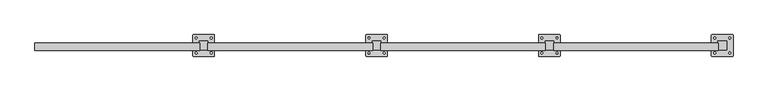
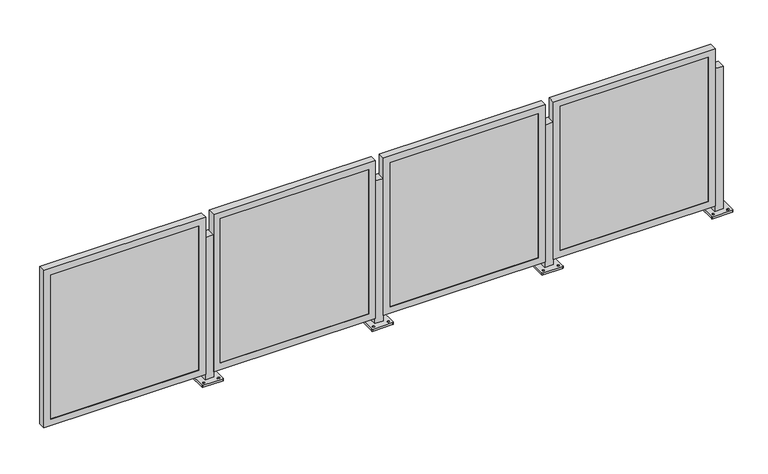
"""IFC4 building model written with IfcOpenShell, lengths in millimetres: railing geometry."""

from ifc_helpers import new_model, si_unit, frame, origin, place, context, project, spatial, polyline, circle_curve, outline, extrude, faceted_brep, source, transform, mapped, element, save
from ifc_brep_helpers import plane_surface, cylinder_surface, revolved_surface, advanced_brep


def railing_f9ef94e7(model_context):
    return source(origin(), model_context, "Body", "SolidModel", [
        advanced_brep(
        [(-18896.2510122, -6796.0307329, 914.4), (-18896.2510122, -6846.8307329, 914.4), (-18845.4510122, -6846.8307329, 914.4), (-18845.4510122, -6796.0307329, 914.4), (-18934.3510123, -6881.7556919, 0.0), (-18934.3510123, -6761.105774, 0.0), (-18931.1759842, -6757.9307458, 0.0), (-18810.5260402, -6757.9307458, 0.0), (-18807.351012, -6761.105774, 0.0), (-18807.351012, -6881.7556919, 0.0), (-18810.5260402, -6884.9307201, 0.0), (-18931.1759842, -6884.9307201, 0.0), (-18915.3009997, -6871.4369876, 0.0), (-18915.3009997, -6860.3244751, 0.0), (-18915.3010106, -6782.5369832, 0.0), (-18915.3010106, -6771.4245016, 0.0), (-18826.4009988, -6871.4369861, 0.0), (-18826.4009988, -6860.3244754, 0.0), (-18826.4010097, -6782.5369817, 0.0), (-18826.4010097, -6771.4245019, 0.0), (-18896.2510122, -6796.0307329, 12.7), (-18896.2510122, -6846.8307329, 12.7), (-18845.4510122, -6846.8307329, 12.7), (-18845.4510122, -6796.0307329, 12.7), (-18934.3510123, -6881.7556919, 12.7), (-18931.1759842, -6884.9307201, 12.7), (-18810.5260402, -6884.9307201, 12.7), (-18807.351012, -6881.7556919, 12.7), (-18807.351012, -6761.105774, 12.7), (-18810.5260402, -6757.9307458, 12.7), (-18931.1759842, -6757.9307458, 12.7), (-18934.3510123, -6761.105774, 12.7), (-18915.3009997, -6871.4369876, 12.7), (-18915.3009997, -6860.3244751, 12.7), (-18915.3010106, -6782.5369832, 12.7), (-18915.3010106, -6771.4245016, 12.7), (-18826.4009988, -6871.4369861, 12.7), (-18826.4009988, -6860.3244754, 12.7), (-18826.4010097, -6782.5369817, 12.7), (-18826.4010097, -6771.4245019, 12.7)],
        [
            (0, 1),
            (1, 2),
            (2, 3),
            (3, 0),
            (4, 5),
            (5, 6, circle_curve(frame((-18931.1759842, -6761.105774, 0.0), z_axis=(0.0, 0.0, -1.0), x_axis=(0.0, 1.0, 0.0)), 3.1750282)),
            (6, 7),
            (7, 8, circle_curve(frame((-18810.5260402, -6761.105774, 0.0), z_axis=(0.0, 0.0, -1.0), x_axis=(0.0, 1.0, 0.0)), 3.1750282)),
            (8, 9),
            (9, 10, circle_curve(frame((-18810.5260402, -6881.7556919, 0.0), z_axis=(0.0, 0.0, -1.0), x_axis=(0.0, 1.0, 0.0)), 3.1750282)),
            (10, 11),
            (11, 4, circle_curve(frame((-18931.1759842, -6881.7556919, 0.0), z_axis=(0.0, 0.0, -1.0), x_axis=(0.0, 1.0, 0.0)), 3.1750282)),
            (12, 13, circle_curve(frame((-18915.3009997, -6865.8807314, 0.0), z_axis=(0.0, 0.0, 1.0), x_axis=(0.0, 1.0, 0.0)), 5.5562562)),
            (13, 12, circle_curve(frame((-18915.3009997, -6865.8807314, 0.0), z_axis=(0.0, 0.0, 1.0), x_axis=(0.0, 1.0, 0.0)), 5.5562562)),
            (14, 15, circle_curve(frame((-18915.3010106, -6776.9807424, 0.0), z_axis=(0.0, 0.0, 1.0), x_axis=(0.0, 1.0, 0.0)), 5.5562408)),
            (15, 14, circle_curve(frame((-18915.3010106, -6776.9807424, 0.0), z_axis=(0.0, 0.0, 1.0), x_axis=(0.0, 1.0, 0.0)), 5.5562408)),
            (16, 17, circle_curve(frame((-18826.4009988, -6865.8807307, 0.0), z_axis=(0.0, 0.0, 1.0), x_axis=(0.0, 1.0, 0.0)), 5.5562553)),
            (17, 16, circle_curve(frame((-18826.4009988, -6865.8807307, 0.0), z_axis=(0.0, 0.0, 1.0), x_axis=(0.0, 1.0, 0.0)), 5.5562553)),
            (18, 19, circle_curve(frame((-18826.4010097, -6776.9807418, 0.0), z_axis=(0.0, 0.0, 1.0), x_axis=(0.0, 1.0, 0.0)), 5.5562399)),
            (19, 18, circle_curve(frame((-18826.4010097, -6776.9807418, 0.0), z_axis=(0.0, 0.0, 1.0), x_axis=(0.0, 1.0, 0.0)), 5.5562399)),
            (0, 20),
            (20, 21),
            (21, 1),
            (21, 22),
            (22, 2),
            (22, 23),
            (23, 3),
            (23, 20),
            (24, 25, circle_curve(frame((-18931.1759842, -6881.7556919, 12.7), z_axis=(0.0, 0.0, 1.0), x_axis=(0.0, 1.0, 0.0)), 3.1750282)),
            (25, 26),
            (26, 27, circle_curve(frame((-18810.5260402, -6881.7556919, 12.7), z_axis=(0.0, 0.0, 1.0), x_axis=(0.0, 1.0, 0.0)), 3.1750282)),
            (27, 28),
            (28, 29, circle_curve(frame((-18810.5260402, -6761.105774, 12.7), z_axis=(0.0, 0.0, 1.0), x_axis=(0.0, 1.0, 0.0)), 3.1750282)),
            (29, 30),
            (30, 31, circle_curve(frame((-18931.1759842, -6761.105774, 12.7), z_axis=(0.0, 0.0, 1.0), x_axis=(0.0, 1.0, 0.0)), 3.1750282)),
            (31, 24),
            (32, 33, circle_curve(frame((-18915.3009997, -6865.8807314, 12.7), z_axis=(0.0, 0.0, -1.0), x_axis=(0.0, 1.0, 0.0)), 5.5562562)),
            (33, 32, circle_curve(frame((-18915.3009997, -6865.8807314, 12.7), z_axis=(0.0, 0.0, -1.0), x_axis=(0.0, 1.0, 0.0)), 5.5562562)),
            (34, 35, circle_curve(frame((-18915.3010106, -6776.9807424, 12.7), z_axis=(0.0, 0.0, -1.0), x_axis=(0.0, 1.0, 0.0)), 5.5562408)),
            (35, 34, circle_curve(frame((-18915.3010106, -6776.9807424, 12.7), z_axis=(0.0, 0.0, -1.0), x_axis=(0.0, 1.0, 0.0)), 5.5562408)),
            (36, 37, circle_curve(frame((-18826.4009988, -6865.8807307, 12.7), z_axis=(0.0, 0.0, -1.0), x_axis=(0.0, 1.0, 0.0)), 5.5562553)),
            (37, 36, circle_curve(frame((-18826.4009988, -6865.8807307, 12.7), z_axis=(0.0, 0.0, -1.0), x_axis=(0.0, 1.0, 0.0)), 5.5562553)),
            (38, 39, circle_curve(frame((-18826.4010097, -6776.9807418, 12.7), z_axis=(0.0, 0.0, -1.0), x_axis=(0.0, 1.0, 0.0)), 5.5562399)),
            (39, 38, circle_curve(frame((-18826.4010097, -6776.9807418, 12.7), z_axis=(0.0, 0.0, -1.0), x_axis=(0.0, 1.0, 0.0)), 5.5562399)),
            (24, 4),
            (11, 25),
            (10, 26),
            (9, 27),
            (8, 28),
            (7, 29),
            (6, 30),
            (5, 31),
            (32, 12),
            (13, 33),
            (34, 14),
            (15, 35),
            (36, 16),
            (17, 37),
            (38, 18),
            (19, 39),
        ],
        [
            plane_surface(frame((-18896.2510122, -6846.8307329, 914.4), z_axis=(0.0, 0.0, 1.0), x_axis=(0.0, -1.0, 0.0))),
            plane_surface(frame((-18896.2510122, -6846.8307329, 0.0), z_axis=(0.0, 0.0, -1.0), x_axis=(0.0, 1.0, 0.0))),
            plane_surface(frame((-18896.2510122, -6796.0307329, 914.4), z_axis=(-1.0, 0.0, 0.0), x_axis=(0.0, 0.0, -1.0))),
            plane_surface(frame((-18896.2510122, -6846.8307329, 914.4), z_axis=(0.0, -1.0, 0.0), x_axis=(0.0, 0.0, -1.0))),
            plane_surface(frame((-18845.4510122, -6846.8307329, 914.4), z_axis=(1.0, 0.0, 0.0), x_axis=(0.0, 0.0, -1.0))),
            plane_surface(frame((-18845.4510122, -6796.0307329, 914.4), z_axis=(0.0, 1.0, 0.0), x_axis=(0.0, 0.0, -1.0))),
            plane_surface(frame((-18931.1759842, -6878.5806638, 12.7), z_axis=(0.0, 0.0, 1.0), x_axis=(-1.0, 0.0, 0.0))),
            cylinder_surface(frame((-18931.1759842, -6881.7556919, 0.0), z_axis=(0.0, 0.0, 1.0), x_axis=(0.0, 1.0, 0.0)), 3.1750282),
            plane_surface(frame((-18931.1759842, -6884.9307201, 12.7), z_axis=(1.1945386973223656e-12, -1.0, 0.0), x_axis=(0.0, 0.0, -1.0))),
            cylinder_surface(frame((-18810.5260402, -6881.7556919, 0.0), z_axis=(0.0, 0.0, 1.0), x_axis=(0.0, 1.0, 0.0)), 3.1750282),
            plane_surface(frame((-18807.351012, -6881.7556919, 12.7), z_axis=(1.0, 0.0, 0.0), x_axis=(0.0, 0.0, -1.0))),
            cylinder_surface(frame((-18810.5260402, -6761.105774, 0.0), z_axis=(0.0, 0.0, 1.0), x_axis=(0.0, 1.0, 0.0)), 3.1750282),
            plane_surface(frame((-18810.5260402, -6757.9307458, 12.7), z_axis=(-1.1946088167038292e-12, 1.0, 0.0), x_axis=(0.0, 0.0, -1.0))),
            cylinder_surface(frame((-18931.1759842, -6761.105774, 0.0), z_axis=(0.0, 0.0, 1.0), x_axis=(0.0, 1.0, 0.0)), 3.1750282),
            plane_surface(frame((-18934.3510123, -6761.105774, 12.7), z_axis=(-1.0, 0.0, 0.0), x_axis=(0.0, 0.0, -1.0))),
            revolved_surface(polyline([(-18915.3009997, -6860.3244752, 0.0), (-18915.3009997, -6860.3244752, 12.7)]), (-18915.3009997, -6865.8807314, 0.0), (0.0, 0.0, -1.0)),
            revolved_surface(polyline([(-18915.3010106, -6771.4245016, 0.0), (-18915.3010106, -6771.4245016, 12.7)]), (-18915.3010106, -6776.9807424, 0.0), (0.0, 0.0, -1.0)),
            revolved_surface(polyline([(-18826.4009988, -6860.3244754, 0.0), (-18826.4009988, -6860.3244754, 12.7)]), (-18826.4009988, -6865.8807307, 0.0), (0.0, 0.0, -1.0)),
            revolved_surface(polyline([(-18826.4010097, -6771.4245019, 0.0), (-18826.4010097, -6771.4245019, 12.7)]), (-18826.4010097, -6776.9807418, 0.0), (0.0, 0.0, -1.0)),
        ],
        [
            (0, [[1, 2, 3, 4]]),
            (1, [[5, 6, 7, 8, 9, 10, 11, 12], [13, 14], [15, 16], [17, 18], [19, 20]]),
            (2, [[-1, 21, 22, 23]]),
            (3, [[-2, -23, 24, 25]]),
            (4, [[-3, -25, 26, 27]]),
            (5, [[-4, -27, 28, -21]]),
            (6, [[29, 30, 31, 32, 33, 34, 35, 36], [-22, -28, -26, -24], [37, 38], [39, 40], [41, 42], [43, 44]]),
            (7, [[-29, 45, -12, 46]]),
            (8, [[-30, -46, -11, 47]]),
            (9, [[-31, -47, -10, 48]]),
            (10, [[-32, -48, -9, 49]]),
            (11, [[-33, -49, -8, 50]]),
            (12, [[-34, -50, -7, 51]]),
            (13, [[-35, -51, -6, 52]]),
            (14, [[-36, -52, -5, -45]]),
            (15, [[-37, 53, -14, 54]]),
            (15, [[-38, -54, -13, -53]]),
            (16, [[-39, 55, -16, 56]]),
            (16, [[-40, -56, -15, -55]]),
            (17, [[-41, 57, -18, 58]]),
            (17, [[-42, -58, -17, -57]]),
            (18, [[-43, 59, -20, 60]]),
            (18, [[-44, -60, -19, -59]]),
        ],
    ),
        faceted_brep([(-19862.6554656, -6849.5739329, 47.625), (-18894.2804656, -6849.5739329, 47.625), (-18894.2804656, -6849.5739329, 1044.575), (-19862.6554656, -6849.5739329, 1044.575), (-19821.3804656, -6849.5739329, 1003.3), (-18935.5554656, -6849.5739329, 1003.3), (-18935.5554656, -6849.5739329, 88.9), (-19821.3804656, -6849.5739329, 88.9), (-19821.3804656, -6846.8307329, 1003.3), (-19821.3804656, -6846.8307329, 88.9), (-19862.6554656, -6805.7006364, 1044.575), (-19862.6554656, -6805.7006364, 47.625), (-19859.4804656, -6805.7006364, 1041.4), (-19859.4804656, -6846.8307329, 1041.4), (-19859.4804656, -6846.8307329, 50.8), (-19859.4804656, -6805.7006364, 50.8), (-18935.5554656, -6846.8307329, 88.9), (-18894.2804656, -6805.7006364, 47.625), (-18897.4554656, -6846.8307329, 50.8), (-18897.4554656, -6805.7006364, 50.8), (-18935.5554656, -6846.8307329, 1003.3), (-18894.2804656, -6805.7006364, 1044.575), (-18897.4554656, -6846.8307329, 1041.4), (-18897.4554656, -6805.7006364, 1041.4)], [[[0, 1, 2, 3], [4, 5, 6, 7]], [[8, 4, 7, 9]], [[3, 10, 11, 0]], [[12, 13, 14, 15]], [[9, 7, 6, 16]], [[0, 11, 17, 1]], [[15, 14, 18, 19]], [[16, 6, 5, 20]], [[1, 17, 21, 2]], [[19, 18, 22, 23]], [[20, 5, 4, 8]], [[10, 21, 17, 11], [15, 19, 23, 12]], [[2, 21, 10, 3]], [[13, 22, 18, 14], [9, 16, 20, 8]], [[23, 22, 13, 12]]]),
        extrude(outline(polyline([(-19859.4804656, -6837.3057329), (-18897.4554656, -6837.3057329), (-18897.4554656, -6846.8307329), (-19859.4804656, -6846.8307329), (-19859.4804656, -6837.3057329)])), frame((0.0, 0.0, 50.8), z_axis=(0.0, 0.0, 1.0), x_axis=(1.0, 0.0, 0.0)), (0.0, 0.0, 1.0), 990.6),
        advanced_brep(
        [(-19912.2510122, -6796.0307329, 914.4), (-19912.2510122, -6846.8307329, 914.4), (-19861.4510122, -6846.8307329, 914.4), (-19861.4510122, -6796.0307329, 914.4), (-19950.3510123, -6881.7556919, 0.0), (-19950.3510123, -6761.105774, 0.0), (-19947.1759842, -6757.9307458, 0.0), (-19826.5260402, -6757.9307458, 0.0), (-19823.351012, -6761.105774, 0.0), (-19823.351012, -6881.7556919, 0.0), (-19826.5260402, -6884.9307201, 0.0), (-19947.1759842, -6884.9307201, 0.0), (-19931.3009997, -6871.4369876, 0.0), (-19931.3009997, -6860.3244751, 0.0), (-19931.3010106, -6782.5369832, 0.0), (-19931.3010106, -6771.4245016, 0.0), (-19842.4009988, -6871.4369861, 0.0), (-19842.4009988, -6860.3244754, 0.0), (-19842.4010097, -6782.5369817, 0.0), (-19842.4010097, -6771.4245019, 0.0), (-19912.2510122, -6796.0307329, 12.7), (-19912.2510122, -6846.8307329, 12.7), (-19861.4510122, -6846.8307329, 12.7), (-19861.4510122, -6796.0307329, 12.7), (-19950.3510123, -6881.7556919, 12.7), (-19947.1759842, -6884.9307201, 12.7), (-19826.5260402, -6884.9307201, 12.7), (-19823.351012, -6881.7556919, 12.7), (-19823.351012, -6761.105774, 12.7), (-19826.5260402, -6757.9307458, 12.7), (-19947.1759842, -6757.9307458, 12.7), (-19950.3510123, -6761.105774, 12.7), (-19931.3009997, -6871.4369876, 12.7), (-19931.3009997, -6860.3244751, 12.7), (-19931.3010106, -6782.5369832, 12.7), (-19931.3010106, -6771.4245016, 12.7), (-19842.4009988, -6871.4369861, 12.7), (-19842.4009988, -6860.3244754, 12.7), (-19842.4010097, -6782.5369817, 12.7), (-19842.4010097, -6771.4245019, 12.7)],
        [
            (0, 1),
            (1, 2),
            (2, 3),
            (3, 0),
            (4, 5),
            (5, 6, circle_curve(frame((-19947.1759842, -6761.105774, 0.0), z_axis=(0.0, 0.0, -1.0), x_axis=(0.0, 1.0, 0.0)), 3.1750282)),
            (6, 7),
            (7, 8, circle_curve(frame((-19826.5260402, -6761.105774, 0.0), z_axis=(0.0, 0.0, -1.0), x_axis=(0.0, 1.0, 0.0)), 3.1750282)),
            (8, 9),
            (9, 10, circle_curve(frame((-19826.5260402, -6881.7556919, 0.0), z_axis=(0.0, 0.0, -1.0), x_axis=(0.0, 1.0, 0.0)), 3.1750282)),
            (10, 11),
            (11, 4, circle_curve(frame((-19947.1759842, -6881.7556919, 0.0), z_axis=(0.0, 0.0, -1.0), x_axis=(0.0, 1.0, 0.0)), 3.1750282)),
            (12, 13, circle_curve(frame((-19931.3009997, -6865.8807314, 0.0), z_axis=(0.0, 0.0, 1.0), x_axis=(0.0, 1.0, 0.0)), 5.5562562)),
            (13, 12, circle_curve(frame((-19931.3009997, -6865.8807314, 0.0), z_axis=(0.0, 0.0, 1.0), x_axis=(0.0, 1.0, 0.0)), 5.5562562)),
            (14, 15, circle_curve(frame((-19931.3010106, -6776.9807424, 0.0), z_axis=(0.0, 0.0, 1.0), x_axis=(0.0, 1.0, 0.0)), 5.5562408)),
            (15, 14, circle_curve(frame((-19931.3010106, -6776.9807424, 0.0), z_axis=(0.0, 0.0, 1.0), x_axis=(0.0, 1.0, 0.0)), 5.5562408)),
            (16, 17, circle_curve(frame((-19842.4009988, -6865.8807307, 0.0), z_axis=(0.0, 0.0, 1.0), x_axis=(0.0, 1.0, 0.0)), 5.5562553)),
            (17, 16, circle_curve(frame((-19842.4009988, -6865.8807307, 0.0), z_axis=(0.0, 0.0, 1.0), x_axis=(0.0, 1.0, 0.0)), 5.5562553)),
            (18, 19, circle_curve(frame((-19842.4010097, -6776.9807418, 0.0), z_axis=(0.0, 0.0, 1.0), x_axis=(0.0, 1.0, 0.0)), 5.5562399)),
            (19, 18, circle_curve(frame((-19842.4010097, -6776.9807418, 0.0), z_axis=(0.0, 0.0, 1.0), x_axis=(0.0, 1.0, 0.0)), 5.5562399)),
            (0, 20),
            (20, 21),
            (21, 1),
            (21, 22),
            (22, 2),
            (22, 23),
            (23, 3),
            (23, 20),
            (24, 25, circle_curve(frame((-19947.1759842, -6881.7556919, 12.7), z_axis=(0.0, 0.0, 1.0), x_axis=(0.0, 1.0, 0.0)), 3.1750282)),
            (25, 26),
            (26, 27, circle_curve(frame((-19826.5260402, -6881.7556919, 12.7), z_axis=(0.0, 0.0, 1.0), x_axis=(0.0, 1.0, 0.0)), 3.1750282)),
            (27, 28),
            (28, 29, circle_curve(frame((-19826.5260402, -6761.105774, 12.7), z_axis=(0.0, 0.0, 1.0), x_axis=(0.0, 1.0, 0.0)), 3.1750282)),
            (29, 30),
            (30, 31, circle_curve(frame((-19947.1759842, -6761.105774, 12.7), z_axis=(0.0, 0.0, 1.0), x_axis=(0.0, 1.0, 0.0)), 3.1750282)),
            (31, 24),
            (32, 33, circle_curve(frame((-19931.3009997, -6865.8807314, 12.7), z_axis=(0.0, 0.0, -1.0), x_axis=(0.0, 1.0, 0.0)), 5.5562562)),
            (33, 32, circle_curve(frame((-19931.3009997, -6865.8807314, 12.7), z_axis=(0.0, 0.0, -1.0), x_axis=(0.0, 1.0, 0.0)), 5.5562562)),
            (34, 35, circle_curve(frame((-19931.3010106, -6776.9807424, 12.7), z_axis=(0.0, 0.0, -1.0), x_axis=(0.0, 1.0, 0.0)), 5.5562408)),
            (35, 34, circle_curve(frame((-19931.3010106, -6776.9807424, 12.7), z_axis=(0.0, 0.0, -1.0), x_axis=(0.0, 1.0, 0.0)), 5.5562408)),
            (36, 37, circle_curve(frame((-19842.4009988, -6865.8807307, 12.7), z_axis=(0.0, 0.0, -1.0), x_axis=(0.0, 1.0, 0.0)), 5.5562553)),
            (37, 36, circle_curve(frame((-19842.4009988, -6865.8807307, 12.7), z_axis=(0.0, 0.0, -1.0), x_axis=(0.0, 1.0, 0.0)), 5.5562553)),
            (38, 39, circle_curve(frame((-19842.4010097, -6776.9807418, 12.7), z_axis=(0.0, 0.0, -1.0), x_axis=(0.0, 1.0, 0.0)), 5.5562399)),
            (39, 38, circle_curve(frame((-19842.4010097, -6776.9807418, 12.7), z_axis=(0.0, 0.0, -1.0), x_axis=(0.0, 1.0, 0.0)), 5.5562399)),
            (24, 4),
            (11, 25),
            (10, 26),
            (9, 27),
            (8, 28),
            (7, 29),
            (6, 30),
            (5, 31),
            (32, 12),
            (13, 33),
            (34, 14),
            (15, 35),
            (36, 16),
            (17, 37),
            (38, 18),
            (19, 39),
        ],
        [
            plane_surface(frame((-19912.2510122, -6846.8307329, 914.4), z_axis=(0.0, 0.0, 1.0), x_axis=(0.0, -1.0, 0.0))),
            plane_surface(frame((-19912.2510122, -6846.8307329, 0.0), z_axis=(0.0, 0.0, -1.0), x_axis=(0.0, 1.0, 0.0))),
            plane_surface(frame((-19912.2510122, -6796.0307329, 914.4), z_axis=(-1.0, 0.0, 0.0), x_axis=(0.0, 0.0, -1.0))),
            plane_surface(frame((-19912.2510122, -6846.8307329, 914.4), z_axis=(0.0, -1.0, 0.0), x_axis=(0.0, 0.0, -1.0))),
            plane_surface(frame((-19861.4510122, -6846.8307329, 914.4), z_axis=(1.0, 0.0, 0.0), x_axis=(0.0, 0.0, -1.0))),
            plane_surface(frame((-19861.4510122, -6796.0307329, 914.4), z_axis=(0.0, 1.0, 0.0), x_axis=(0.0, 0.0, -1.0))),
            plane_surface(frame((-19947.1759842, -6878.5806638, 12.7), z_axis=(0.0, 0.0, 1.0), x_axis=(-1.0, 0.0, 0.0))),
            cylinder_surface(frame((-19947.1759842, -6881.7556919, 0.0), z_axis=(0.0, 0.0, 1.0), x_axis=(0.0, 1.0, 0.0)), 3.1750282),
            plane_surface(frame((-19947.1759842, -6884.9307201, 12.7), z_axis=(1.1945386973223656e-12, -1.0, 0.0), x_axis=(0.0, 0.0, -1.0))),
            cylinder_surface(frame((-19826.5260402, -6881.7556919, 0.0), z_axis=(0.0, 0.0, 1.0), x_axis=(0.0, 1.0, 0.0)), 3.1750282),
            plane_surface(frame((-19823.351012, -6881.7556919, 12.7), z_axis=(1.0, 0.0, 0.0), x_axis=(0.0, 0.0, -1.0))),
            cylinder_surface(frame((-19826.5260402, -6761.105774, 0.0), z_axis=(0.0, 0.0, 1.0), x_axis=(0.0, 1.0, 0.0)), 3.1750282),
            plane_surface(frame((-19826.5260402, -6757.9307458, 12.7), z_axis=(-1.1946088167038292e-12, 1.0, 0.0), x_axis=(0.0, 0.0, -1.0))),
            cylinder_surface(frame((-19947.1759842, -6761.105774, 0.0), z_axis=(0.0, 0.0, 1.0), x_axis=(0.0, 1.0, 0.0)), 3.1750282),
            plane_surface(frame((-19950.3510123, -6761.105774, 12.7), z_axis=(-1.0, 0.0, 0.0), x_axis=(0.0, 0.0, -1.0))),
            revolved_surface(polyline([(-19931.3009997, -6860.3244752, 0.0), (-19931.3009997, -6860.3244752, 12.7)]), (-19931.3009997, -6865.8807314, 0.0), (0.0, 0.0, -1.0)),
            revolved_surface(polyline([(-19931.3010106, -6771.4245016, 0.0), (-19931.3010106, -6771.4245016, 12.7)]), (-19931.3010106, -6776.9807424, 0.0), (0.0, 0.0, -1.0)),
            revolved_surface(polyline([(-19842.4009988, -6860.3244754, 0.0), (-19842.4009988, -6860.3244754, 12.7)]), (-19842.4009988, -6865.8807307, 0.0), (0.0, 0.0, -1.0)),
            revolved_surface(polyline([(-19842.4010097, -6771.4245019, 0.0), (-19842.4010097, -6771.4245019, 12.7)]), (-19842.4010097, -6776.9807418, 0.0), (0.0, 0.0, -1.0)),
        ],
        [
            (0, [[1, 2, 3, 4]]),
            (1, [[5, 6, 7, 8, 9, 10, 11, 12], [13, 14], [15, 16], [17, 18], [19, 20]]),
            (2, [[-1, 21, 22, 23]]),
            (3, [[-2, -23, 24, 25]]),
            (4, [[-3, -25, 26, 27]]),
            (5, [[-4, -27, 28, -21]]),
            (6, [[29, 30, 31, 32, 33, 34, 35, 36], [-22, -28, -26, -24], [37, 38], [39, 40], [41, 42], [43, 44]]),
            (7, [[-29, 45, -12, 46]]),
            (8, [[-30, -46, -11, 47]]),
            (9, [[-31, -47, -10, 48]]),
            (10, [[-32, -48, -9, 49]]),
            (11, [[-33, -49, -8, 50]]),
            (12, [[-34, -50, -7, 51]]),
            (13, [[-35, -51, -6, 52]]),
            (14, [[-36, -52, -5, -45]]),
            (15, [[-37, 53, -14, 54]]),
            (15, [[-38, -54, -13, -53]]),
            (16, [[-39, 55, -16, 56]]),
            (16, [[-40, -56, -15, -55]]),
            (17, [[-41, 57, -18, 58]]),
            (17, [[-42, -58, -17, -57]]),
            (18, [[-43, 59, -20, 60]]),
            (18, [[-44, -60, -19, -59]]),
        ],
    ),
        faceted_brep([(-20878.6554656, -6849.5739329, 47.625), (-19910.2804656, -6849.5739329, 47.625), (-19910.2804656, -6849.5739329, 1044.575), (-20878.6554656, -6849.5739329, 1044.575), (-20837.3804656, -6849.5739329, 1003.3), (-19951.5554656, -6849.5739329, 1003.3), (-19951.5554656, -6849.5739329, 88.9), (-20837.3804656, -6849.5739329, 88.9), (-20837.3804656, -6846.8307329, 1003.3), (-20837.3804656, -6846.8307329, 88.9), (-20878.6554656, -6805.7006364, 1044.575), (-20878.6554656, -6805.7006364, 47.625), (-20875.4804656, -6805.7006364, 1041.4), (-20875.4804656, -6846.8307329, 1041.4), (-20875.4804656, -6846.8307329, 50.8), (-20875.4804656, -6805.7006364, 50.8), (-19951.5554656, -6846.8307329, 88.9), (-19910.2804656, -6805.7006364, 47.625), (-19913.4554656, -6846.8307329, 50.8), (-19913.4554656, -6805.7006364, 50.8), (-19951.5554656, -6846.8307329, 1003.3), (-19910.2804656, -6805.7006364, 1044.575), (-19913.4554656, -6846.8307329, 1041.4), (-19913.4554656, -6805.7006364, 1041.4)], [[[0, 1, 2, 3], [4, 5, 6, 7]], [[8, 4, 7, 9]], [[3, 10, 11, 0]], [[12, 13, 14, 15]], [[9, 7, 6, 16]], [[0, 11, 17, 1]], [[15, 14, 18, 19]], [[16, 6, 5, 20]], [[1, 17, 21, 2]], [[19, 18, 22, 23]], [[20, 5, 4, 8]], [[10, 21, 17, 11], [15, 19, 23, 12]], [[2, 21, 10, 3]], [[13, 22, 18, 14], [9, 16, 20, 8]], [[23, 22, 13, 12]]]),
        extrude(outline(polyline([(-20875.4804656, -6837.3057329), (-19913.4554656, -6837.3057329), (-19913.4554656, -6846.8307329), (-20875.4804656, -6846.8307329), (-20875.4804656, -6837.3057329)])), frame((0.0, 0.0, 50.8), z_axis=(0.0, 0.0, 1.0), x_axis=(1.0, 0.0, 0.0)), (0.0, 0.0, 1.0), 990.6),
        advanced_brep(
        [(-20928.2510122, -6796.0307329, 914.4), (-20928.2510122, -6846.8307329, 914.4), (-20877.4510122, -6846.8307329, 914.4), (-20877.4510122, -6796.0307329, 914.4), (-20966.3510123, -6881.7556919, 0.0), (-20966.3510123, -6761.105774, 0.0), (-20963.1759842, -6757.9307458, 0.0), (-20842.5260402, -6757.9307458, 0.0), (-20839.351012, -6761.105774, 0.0), (-20839.351012, -6881.7556919, 0.0), (-20842.5260402, -6884.9307201, 0.0), (-20963.1759842, -6884.9307201, 0.0), (-20947.3009997, -6871.4369876, 0.0), (-20947.3009997, -6860.3244751, 0.0), (-20947.3010106, -6782.5369832, 0.0), (-20947.3010106, -6771.4245016, 0.0), (-20858.4009988, -6871.4369861, 0.0), (-20858.4009988, -6860.3244754, 0.0), (-20858.4010097, -6782.5369817, 0.0), (-20858.4010097, -6771.4245019, 0.0), (-20928.2510122, -6796.0307329, 12.7), (-20928.2510122, -6846.8307329, 12.7), (-20877.4510122, -6846.8307329, 12.7), (-20877.4510122, -6796.0307329, 12.7), (-20966.3510123, -6881.7556919, 12.7), (-20963.1759842, -6884.9307201, 12.7), (-20842.5260402, -6884.9307201, 12.7), (-20839.351012, -6881.7556919, 12.7), (-20839.351012, -6761.105774, 12.7), (-20842.5260402, -6757.9307458, 12.7), (-20963.1759842, -6757.9307458, 12.7), (-20966.3510123, -6761.105774, 12.7), (-20947.3009997, -6871.4369876, 12.7), (-20947.3009997, -6860.3244751, 12.7), (-20947.3010106, -6782.5369832, 12.7), (-20947.3010106, -6771.4245016, 12.7), (-20858.4009988, -6871.4369861, 12.7), (-20858.4009988, -6860.3244754, 12.7), (-20858.4010097, -6782.5369817, 12.7), (-20858.4010097, -6771.4245019, 12.7)],
        [
            (0, 1),
            (1, 2),
            (2, 3),
            (3, 0),
            (4, 5),
            (5, 6, circle_curve(frame((-20963.1759842, -6761.105774, 0.0), z_axis=(0.0, 0.0, -1.0), x_axis=(0.0, 1.0, 0.0)), 3.1750282)),
            (6, 7),
            (7, 8, circle_curve(frame((-20842.5260402, -6761.105774, 0.0), z_axis=(0.0, 0.0, -1.0), x_axis=(0.0, 1.0, 0.0)), 3.1750282)),
            (8, 9),
            (9, 10, circle_curve(frame((-20842.5260402, -6881.7556919, 0.0), z_axis=(0.0, 0.0, -1.0), x_axis=(0.0, 1.0, 0.0)), 3.1750282)),
            (10, 11),
            (11, 4, circle_curve(frame((-20963.1759842, -6881.7556919, 0.0), z_axis=(0.0, 0.0, -1.0), x_axis=(0.0, 1.0, 0.0)), 3.1750282)),
            (12, 13, circle_curve(frame((-20947.3009997, -6865.8807314, 0.0), z_axis=(0.0, 0.0, 1.0), x_axis=(0.0, 1.0, 0.0)), 5.5562562)),
            (13, 12, circle_curve(frame((-20947.3009997, -6865.8807314, 0.0), z_axis=(0.0, 0.0, 1.0), x_axis=(0.0, 1.0, 0.0)), 5.5562562)),
            (14, 15, circle_curve(frame((-20947.3010106, -6776.9807424, 0.0), z_axis=(0.0, 0.0, 1.0), x_axis=(0.0, 1.0, 0.0)), 5.5562408)),
            (15, 14, circle_curve(frame((-20947.3010106, -6776.9807424, 0.0), z_axis=(0.0, 0.0, 1.0), x_axis=(0.0, 1.0, 0.0)), 5.5562408)),
            (16, 17, circle_curve(frame((-20858.4009988, -6865.8807307, 0.0), z_axis=(0.0, 0.0, 1.0), x_axis=(0.0, 1.0, 0.0)), 5.5562553)),
            (17, 16, circle_curve(frame((-20858.4009988, -6865.8807307, 0.0), z_axis=(0.0, 0.0, 1.0), x_axis=(0.0, 1.0, 0.0)), 5.5562553)),
            (18, 19, circle_curve(frame((-20858.4010097, -6776.9807418, 0.0), z_axis=(0.0, 0.0, 1.0), x_axis=(0.0, 1.0, 0.0)), 5.5562399)),
            (19, 18, circle_curve(frame((-20858.4010097, -6776.9807418, 0.0), z_axis=(0.0, 0.0, 1.0), x_axis=(0.0, 1.0, 0.0)), 5.5562399)),
            (0, 20),
            (20, 21),
            (21, 1),
            (21, 22),
            (22, 2),
            (22, 23),
            (23, 3),
            (23, 20),
            (24, 25, circle_curve(frame((-20963.1759842, -6881.7556919, 12.7), z_axis=(0.0, 0.0, 1.0), x_axis=(0.0, 1.0, 0.0)), 3.1750282)),
            (25, 26),
            (26, 27, circle_curve(frame((-20842.5260402, -6881.7556919, 12.7), z_axis=(0.0, 0.0, 1.0), x_axis=(0.0, 1.0, 0.0)), 3.1750282)),
            (27, 28),
            (28, 29, circle_curve(frame((-20842.5260402, -6761.105774, 12.7), z_axis=(0.0, 0.0, 1.0), x_axis=(0.0, 1.0, 0.0)), 3.1750282)),
            (29, 30),
            (30, 31, circle_curve(frame((-20963.1759842, -6761.105774, 12.7), z_axis=(0.0, 0.0, 1.0), x_axis=(0.0, 1.0, 0.0)), 3.1750282)),
            (31, 24),
            (32, 33, circle_curve(frame((-20947.3009997, -6865.8807314, 12.7), z_axis=(0.0, 0.0, -1.0), x_axis=(0.0, 1.0, 0.0)), 5.5562562)),
            (33, 32, circle_curve(frame((-20947.3009997, -6865.8807314, 12.7), z_axis=(0.0, 0.0, -1.0), x_axis=(0.0, 1.0, 0.0)), 5.5562562)),
            (34, 35, circle_curve(frame((-20947.3010106, -6776.9807424, 12.7), z_axis=(0.0, 0.0, -1.0), x_axis=(0.0, 1.0, 0.0)), 5.5562408)),
            (35, 34, circle_curve(frame((-20947.3010106, -6776.9807424, 12.7), z_axis=(0.0, 0.0, -1.0), x_axis=(0.0, 1.0, 0.0)), 5.5562408)),
            (36, 37, circle_curve(frame((-20858.4009988, -6865.8807307, 12.7), z_axis=(0.0, 0.0, -1.0), x_axis=(0.0, 1.0, 0.0)), 5.5562553)),
            (37, 36, circle_curve(frame((-20858.4009988, -6865.8807307, 12.7), z_axis=(0.0, 0.0, -1.0), x_axis=(0.0, 1.0, 0.0)), 5.5562553)),
            (38, 39, circle_curve(frame((-20858.4010097, -6776.9807418, 12.7), z_axis=(0.0, 0.0, -1.0), x_axis=(0.0, 1.0, 0.0)), 5.5562399)),
            (39, 38, circle_curve(frame((-20858.4010097, -6776.9807418, 12.7), z_axis=(0.0, 0.0, -1.0), x_axis=(0.0, 1.0, 0.0)), 5.5562399)),
            (24, 4),
            (11, 25),
            (10, 26),
            (9, 27),
            (8, 28),
            (7, 29),
            (6, 30),
            (5, 31),
            (32, 12),
            (13, 33),
            (34, 14),
            (15, 35),
            (36, 16),
            (17, 37),
            (38, 18),
            (19, 39),
        ],
        [
            plane_surface(frame((-20928.2510122, -6846.8307329, 914.4), z_axis=(0.0, 0.0, 1.0), x_axis=(0.0, -1.0, 0.0))),
            plane_surface(frame((-20928.2510122, -6846.8307329, 0.0), z_axis=(0.0, 0.0, -1.0), x_axis=(0.0, 1.0, 0.0))),
            plane_surface(frame((-20928.2510122, -6796.0307329, 914.4), z_axis=(-1.0, 0.0, 0.0), x_axis=(0.0, 0.0, -1.0))),
            plane_surface(frame((-20928.2510122, -6846.8307329, 914.4), z_axis=(0.0, -1.0, 0.0), x_axis=(0.0, 0.0, -1.0))),
            plane_surface(frame((-20877.4510122, -6846.8307329, 914.4), z_axis=(1.0, 0.0, 0.0), x_axis=(0.0, 0.0, -1.0))),
            plane_surface(frame((-20877.4510122, -6796.0307329, 914.4), z_axis=(0.0, 1.0, 0.0), x_axis=(0.0, 0.0, -1.0))),
            plane_surface(frame((-20963.1759842, -6878.5806638, 12.7), z_axis=(0.0, 0.0, 1.0), x_axis=(-1.0, 0.0, 0.0))),
            cylinder_surface(frame((-20963.1759842, -6881.7556919, 0.0), z_axis=(0.0, 0.0, 1.0), x_axis=(0.0, 1.0, 0.0)), 3.1750282),
            plane_surface(frame((-20963.1759842, -6884.9307201, 12.7), z_axis=(1.1945386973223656e-12, -1.0, 0.0), x_axis=(0.0, 0.0, -1.0))),
            cylinder_surface(frame((-20842.5260402, -6881.7556919, 0.0), z_axis=(0.0, 0.0, 1.0), x_axis=(0.0, 1.0, 0.0)), 3.1750282),
            plane_surface(frame((-20839.351012, -6881.7556919, 12.7), z_axis=(1.0, 0.0, 0.0), x_axis=(0.0, 0.0, -1.0))),
            cylinder_surface(frame((-20842.5260402, -6761.105774, 0.0), z_axis=(0.0, 0.0, 1.0), x_axis=(0.0, 1.0, 0.0)), 3.1750282),
            plane_surface(frame((-20842.5260402, -6757.9307458, 12.7), z_axis=(-1.1946088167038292e-12, 1.0, 0.0), x_axis=(0.0, 0.0, -1.0))),
            cylinder_surface(frame((-20963.1759842, -6761.105774, 0.0), z_axis=(0.0, 0.0, 1.0), x_axis=(0.0, 1.0, 0.0)), 3.1750282),
            plane_surface(frame((-20966.3510123, -6761.105774, 12.7), z_axis=(-1.0, 0.0, 0.0), x_axis=(0.0, 0.0, -1.0))),
            revolved_surface(polyline([(-20947.3009997, -6860.3244752, 0.0), (-20947.3009997, -6860.3244752, 12.7)]), (-20947.3009997, -6865.8807314, 0.0), (0.0, 0.0, -1.0)),
            revolved_surface(polyline([(-20947.3010106, -6771.4245016, 0.0), (-20947.3010106, -6771.4245016, 12.7)]), (-20947.3010106, -6776.9807424, 0.0), (0.0, 0.0, -1.0)),
            revolved_surface(polyline([(-20858.4009988, -6860.3244754, 0.0), (-20858.4009988, -6860.3244754, 12.7)]), (-20858.4009988, -6865.8807307, 0.0), (0.0, 0.0, -1.0)),
            revolved_surface(polyline([(-20858.4010097, -6771.4245019, 0.0), (-20858.4010097, -6771.4245019, 12.7)]), (-20858.4010097, -6776.9807418, 0.0), (0.0, 0.0, -1.0)),
        ],
        [
            (0, [[1, 2, 3, 4]]),
            (1, [[5, 6, 7, 8, 9, 10, 11, 12], [13, 14], [15, 16], [17, 18], [19, 20]]),
            (2, [[-1, 21, 22, 23]]),
            (3, [[-2, -23, 24, 25]]),
            (4, [[-3, -25, 26, 27]]),
            (5, [[-4, -27, 28, -21]]),
            (6, [[29, 30, 31, 32, 33, 34, 35, 36], [-22, -28, -26, -24], [37, 38], [39, 40], [41, 42], [43, 44]]),
            (7, [[-29, 45, -12, 46]]),
            (8, [[-30, -46, -11, 47]]),
            (9, [[-31, -47, -10, 48]]),
            (10, [[-32, -48, -9, 49]]),
            (11, [[-33, -49, -8, 50]]),
            (12, [[-34, -50, -7, 51]]),
            (13, [[-35, -51, -6, 52]]),
            (14, [[-36, -52, -5, -45]]),
            (15, [[-37, 53, -14, 54]]),
            (15, [[-38, -54, -13, -53]]),
            (16, [[-39, 55, -16, 56]]),
            (16, [[-40, -56, -15, -55]]),
            (17, [[-41, 57, -18, 58]]),
            (17, [[-42, -58, -17, -57]]),
            (18, [[-43, 59, -20, 60]]),
            (18, [[-44, -60, -19, -59]]),
        ],
    ),
        faceted_brep([(-21894.6554656, -6849.5739329, 47.625), (-20926.2804656, -6849.5739329, 47.625), (-20926.2804656, -6849.5739329, 1044.575), (-21894.6554656, -6849.5739329, 1044.575), (-21853.3804656, -6849.5739329, 1003.3), (-20967.5554656, -6849.5739329, 1003.3), (-20967.5554656, -6849.5739329, 88.9), (-21853.3804656, -6849.5739329, 88.9), (-21853.3804656, -6846.8307329, 1003.3), (-21853.3804656, -6846.8307329, 88.9), (-21894.6554656, -6805.7006364, 1044.575), (-21894.6554656, -6805.7006364, 47.625), (-21891.4804656, -6805.7006364, 1041.4), (-21891.4804656, -6846.8307329, 1041.4), (-21891.4804656, -6846.8307329, 50.8), (-21891.4804656, -6805.7006364, 50.8), (-20967.5554656, -6846.8307329, 88.9), (-20926.2804656, -6805.7006364, 47.625), (-20929.4554656, -6846.8307329, 50.8), (-20929.4554656, -6805.7006364, 50.8), (-20967.5554656, -6846.8307329, 1003.3), (-20926.2804656, -6805.7006364, 1044.575), (-20929.4554656, -6846.8307329, 1041.4), (-20929.4554656, -6805.7006364, 1041.4)], [[[0, 1, 2, 3], [4, 5, 6, 7]], [[8, 4, 7, 9]], [[3, 10, 11, 0]], [[12, 13, 14, 15]], [[9, 7, 6, 16]], [[0, 11, 17, 1]], [[15, 14, 18, 19]], [[16, 6, 5, 20]], [[1, 17, 21, 2]], [[19, 18, 22, 23]], [[20, 5, 4, 8]], [[10, 21, 17, 11], [15, 19, 23, 12]], [[2, 21, 10, 3]], [[13, 22, 18, 14], [9, 16, 20, 8]], [[23, 22, 13, 12]]]),
        extrude(outline(polyline([(-21891.4804656, -6837.3057329), (-20929.4554656, -6837.3057329), (-20929.4554656, -6846.8307329), (-21891.4804656, -6846.8307329), (-21891.4804656, -6837.3057329)])), frame((0.0, 0.0, 50.8), z_axis=(0.0, 0.0, 1.0), x_axis=(1.0, 0.0, 0.0)), (0.0, 0.0, 1.0), 990.6),
        advanced_brep(
        [(-21944.2510122, -6796.0307329, 914.4), (-21944.2510122, -6846.8307329, 914.4), (-21893.4510122, -6846.8307329, 914.4), (-21893.4510122, -6796.0307329, 914.4), (-21982.3510123, -6881.7556919, 0.0), (-21982.3510123, -6761.105774, 0.0), (-21979.1759842, -6757.9307458, 0.0), (-21858.5260402, -6757.9307458, 0.0), (-21855.351012, -6761.105774, 0.0), (-21855.351012, -6881.7556919, 0.0), (-21858.5260402, -6884.9307201, 0.0), (-21979.1759842, -6884.9307201, 0.0), (-21963.3009997, -6871.4369876, 0.0), (-21963.3009997, -6860.3244751, 0.0), (-21963.3010106, -6782.5369832, 0.0), (-21963.3010106, -6771.4245016, 0.0), (-21874.4009988, -6871.4369861, 0.0), (-21874.4009988, -6860.3244754, 0.0), (-21874.4010097, -6782.5369817, 0.0), (-21874.4010097, -6771.4245019, 0.0), (-21944.2510122, -6796.0307329, 12.7), (-21944.2510122, -6846.8307329, 12.7), (-21893.4510122, -6846.8307329, 12.7), (-21893.4510122, -6796.0307329, 12.7), (-21982.3510123, -6881.7556919, 12.7), (-21979.1759842, -6884.9307201, 12.7), (-21858.5260402, -6884.9307201, 12.7), (-21855.351012, -6881.7556919, 12.7), (-21855.351012, -6761.105774, 12.7), (-21858.5260402, -6757.9307458, 12.7), (-21979.1759842, -6757.9307458, 12.7), (-21982.3510123, -6761.105774, 12.7), (-21963.3009997, -6871.4369876, 12.7), (-21963.3009997, -6860.3244751, 12.7), (-21963.3010106, -6782.5369832, 12.7), (-21963.3010106, -6771.4245016, 12.7), (-21874.4009988, -6871.4369861, 12.7), (-21874.4009988, -6860.3244754, 12.7), (-21874.4010097, -6782.5369817, 12.7), (-21874.4010097, -6771.4245019, 12.7)],
        [
            (0, 1),
            (1, 2),
            (2, 3),
            (3, 0),
            (4, 5),
            (5, 6, circle_curve(frame((-21979.1759842, -6761.105774, 0.0), z_axis=(0.0, 0.0, -1.0), x_axis=(0.0, 1.0, 0.0)), 3.1750282)),
            (6, 7),
            (7, 8, circle_curve(frame((-21858.5260402, -6761.105774, 0.0), z_axis=(0.0, 0.0, -1.0), x_axis=(0.0, 1.0, 0.0)), 3.1750282)),
            (8, 9),
            (9, 10, circle_curve(frame((-21858.5260402, -6881.7556919, 0.0), z_axis=(0.0, 0.0, -1.0), x_axis=(0.0, 1.0, 0.0)), 3.1750282)),
            (10, 11),
            (11, 4, circle_curve(frame((-21979.1759842, -6881.7556919, 0.0), z_axis=(0.0, 0.0, -1.0), x_axis=(0.0, 1.0, 0.0)), 3.1750282)),
            (12, 13, circle_curve(frame((-21963.3009997, -6865.8807314, 0.0), z_axis=(0.0, 0.0, 1.0), x_axis=(0.0, 1.0, 0.0)), 5.5562562)),
            (13, 12, circle_curve(frame((-21963.3009997, -6865.8807314, 0.0), z_axis=(0.0, 0.0, 1.0), x_axis=(0.0, 1.0, 0.0)), 5.5562562)),
            (14, 15, circle_curve(frame((-21963.3010106, -6776.9807424, 0.0), z_axis=(0.0, 0.0, 1.0), x_axis=(0.0, 1.0, 0.0)), 5.5562408)),
            (15, 14, circle_curve(frame((-21963.3010106, -6776.9807424, 0.0), z_axis=(0.0, 0.0, 1.0), x_axis=(0.0, 1.0, 0.0)), 5.5562408)),
            (16, 17, circle_curve(frame((-21874.4009988, -6865.8807307, 0.0), z_axis=(0.0, 0.0, 1.0), x_axis=(0.0, 1.0, 0.0)), 5.5562553)),
            (17, 16, circle_curve(frame((-21874.4009988, -6865.8807307, 0.0), z_axis=(0.0, 0.0, 1.0), x_axis=(0.0, 1.0, 0.0)), 5.5562553)),
            (18, 19, circle_curve(frame((-21874.4010097, -6776.9807418, 0.0), z_axis=(0.0, 0.0, 1.0), x_axis=(0.0, 1.0, 0.0)), 5.5562399)),
            (19, 18, circle_curve(frame((-21874.4010097, -6776.9807418, 0.0), z_axis=(0.0, 0.0, 1.0), x_axis=(0.0, 1.0, 0.0)), 5.5562399)),
            (0, 20),
            (20, 21),
            (21, 1),
            (21, 22),
            (22, 2),
            (22, 23),
            (23, 3),
            (23, 20),
            (24, 25, circle_curve(frame((-21979.1759842, -6881.7556919, 12.7), z_axis=(0.0, 0.0, 1.0), x_axis=(0.0, 1.0, 0.0)), 3.1750282)),
            (25, 26),
            (26, 27, circle_curve(frame((-21858.5260402, -6881.7556919, 12.7), z_axis=(0.0, 0.0, 1.0), x_axis=(0.0, 1.0, 0.0)), 3.1750282)),
            (27, 28),
            (28, 29, circle_curve(frame((-21858.5260402, -6761.105774, 12.7), z_axis=(0.0, 0.0, 1.0), x_axis=(0.0, 1.0, 0.0)), 3.1750282)),
            (29, 30),
            (30, 31, circle_curve(frame((-21979.1759842, -6761.105774, 12.7), z_axis=(0.0, 0.0, 1.0), x_axis=(0.0, 1.0, 0.0)), 3.1750282)),
            (31, 24),
            (32, 33, circle_curve(frame((-21963.3009997, -6865.8807314, 12.7), z_axis=(0.0, 0.0, -1.0), x_axis=(0.0, 1.0, 0.0)), 5.5562562)),
            (33, 32, circle_curve(frame((-21963.3009997, -6865.8807314, 12.7), z_axis=(0.0, 0.0, -1.0), x_axis=(0.0, 1.0, 0.0)), 5.5562562)),
            (34, 35, circle_curve(frame((-21963.3010106, -6776.9807424, 12.7), z_axis=(0.0, 0.0, -1.0), x_axis=(0.0, 1.0, 0.0)), 5.5562408)),
            (35, 34, circle_curve(frame((-21963.3010106, -6776.9807424, 12.7), z_axis=(0.0, 0.0, -1.0), x_axis=(0.0, 1.0, 0.0)), 5.5562408)),
            (36, 37, circle_curve(frame((-21874.4009988, -6865.8807307, 12.7), z_axis=(0.0, 0.0, -1.0), x_axis=(0.0, 1.0, 0.0)), 5.5562553)),
            (37, 36, circle_curve(frame((-21874.4009988, -6865.8807307, 12.7), z_axis=(0.0, 0.0, -1.0), x_axis=(0.0, 1.0, 0.0)), 5.5562553)),
            (38, 39, circle_curve(frame((-21874.4010097, -6776.9807418, 12.7), z_axis=(0.0, 0.0, -1.0), x_axis=(0.0, 1.0, 0.0)), 5.5562399)),
            (39, 38, circle_curve(frame((-21874.4010097, -6776.9807418, 12.7), z_axis=(0.0, 0.0, -1.0), x_axis=(0.0, 1.0, 0.0)), 5.5562399)),
            (24, 4),
            (11, 25),
            (10, 26),
            (9, 27),
            (8, 28),
            (7, 29),
            (6, 30),
            (5, 31),
            (32, 12),
            (13, 33),
            (34, 14),
            (15, 35),
            (36, 16),
            (17, 37),
            (38, 18),
            (19, 39),
        ],
        [
            plane_surface(frame((-21944.2510122, -6846.8307329, 914.4), z_axis=(0.0, 0.0, 1.0), x_axis=(0.0, -1.0, 0.0))),
            plane_surface(frame((-21944.2510122, -6846.8307329, 0.0), z_axis=(0.0, 0.0, -1.0), x_axis=(0.0, 1.0, 0.0))),
            plane_surface(frame((-21944.2510122, -6796.0307329, 914.4), z_axis=(-1.0, 0.0, 0.0), x_axis=(0.0, 0.0, -1.0))),
            plane_surface(frame((-21944.2510122, -6846.8307329, 914.4), z_axis=(0.0, -1.0, 0.0), x_axis=(0.0, 0.0, -1.0))),
            plane_surface(frame((-21893.4510122, -6846.8307329, 914.4), z_axis=(1.0, 0.0, 0.0), x_axis=(0.0, 0.0, -1.0))),
            plane_surface(frame((-21893.4510122, -6796.0307329, 914.4), z_axis=(0.0, 1.0, 0.0), x_axis=(0.0, 0.0, -1.0))),
            plane_surface(frame((-21979.1759842, -6878.5806638, 12.7), z_axis=(0.0, 0.0, 1.0), x_axis=(-1.0, 0.0, 0.0))),
            cylinder_surface(frame((-21979.1759842, -6881.7556919, 0.0), z_axis=(0.0, 0.0, 1.0), x_axis=(0.0, 1.0, 0.0)), 3.1750282),
            plane_surface(frame((-21979.1759842, -6884.9307201, 12.7), z_axis=(1.1945386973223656e-12, -1.0, 0.0), x_axis=(0.0, 0.0, -1.0))),
            cylinder_surface(frame((-21858.5260402, -6881.7556919, 0.0), z_axis=(0.0, 0.0, 1.0), x_axis=(0.0, 1.0, 0.0)), 3.1750282),
            plane_surface(frame((-21855.351012, -6881.7556919, 12.7), z_axis=(1.0, 0.0, 0.0), x_axis=(0.0, 0.0, -1.0))),
            cylinder_surface(frame((-21858.5260402, -6761.105774, 0.0), z_axis=(0.0, 0.0, 1.0), x_axis=(0.0, 1.0, 0.0)), 3.1750282),
            plane_surface(frame((-21858.5260402, -6757.9307458, 12.7), z_axis=(-1.1946088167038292e-12, 1.0, 0.0), x_axis=(0.0, 0.0, -1.0))),
            cylinder_surface(frame((-21979.1759842, -6761.105774, 0.0), z_axis=(0.0, 0.0, 1.0), x_axis=(0.0, 1.0, 0.0)), 3.1750282),
            plane_surface(frame((-21982.3510123, -6761.105774, 12.7), z_axis=(-1.0, 0.0, 0.0), x_axis=(0.0, 0.0, -1.0))),
            revolved_surface(polyline([(-21963.3009997, -6860.3244752, 0.0), (-21963.3009997, -6860.3244752, 12.7)]), (-21963.3009997, -6865.8807314, 0.0), (0.0, 0.0, -1.0)),
            revolved_surface(polyline([(-21963.3010106, -6771.4245016, 0.0), (-21963.3010106, -6771.4245016, 12.7)]), (-21963.3010106, -6776.9807424, 0.0), (0.0, 0.0, -1.0)),
            revolved_surface(polyline([(-21874.4009988, -6860.3244754, 0.0), (-21874.4009988, -6860.3244754, 12.7)]), (-21874.4009988, -6865.8807307, 0.0), (0.0, 0.0, -1.0)),
            revolved_surface(polyline([(-21874.4010097, -6771.4245019, 0.0), (-21874.4010097, -6771.4245019, 12.7)]), (-21874.4010097, -6776.9807418, 0.0), (0.0, 0.0, -1.0)),
        ],
        [
            (0, [[1, 2, 3, 4]]),
            (1, [[5, 6, 7, 8, 9, 10, 11, 12], [13, 14], [15, 16], [17, 18], [19, 20]]),
            (2, [[-1, 21, 22, 23]]),
            (3, [[-2, -23, 24, 25]]),
            (4, [[-3, -25, 26, 27]]),
            (5, [[-4, -27, 28, -21]]),
            (6, [[29, 30, 31, 32, 33, 34, 35, 36], [-22, -28, -26, -24], [37, 38], [39, 40], [41, 42], [43, 44]]),
            (7, [[-29, 45, -12, 46]]),
            (8, [[-30, -46, -11, 47]]),
            (9, [[-31, -47, -10, 48]]),
            (10, [[-32, -48, -9, 49]]),
            (11, [[-33, -49, -8, 50]]),
            (12, [[-34, -50, -7, 51]]),
            (13, [[-35, -51, -6, 52]]),
            (14, [[-36, -52, -5, -45]]),
            (15, [[-37, 53, -14, 54]]),
            (15, [[-38, -54, -13, -53]]),
            (16, [[-39, 55, -16, 56]]),
            (16, [[-40, -56, -15, -55]]),
            (17, [[-41, 57, -18, 58]]),
            (17, [[-42, -58, -17, -57]]),
            (18, [[-43, 59, -20, 60]]),
            (18, [[-44, -60, -19, -59]]),
        ],
    ),
        faceted_brep([(-22910.6554656, -6849.5739329, 47.625), (-21942.2804656, -6849.5739329, 47.625), (-21942.2804656, -6849.5739329, 1044.575), (-22910.6554656, -6849.5739329, 1044.575), (-22869.3804656, -6849.5739329, 1003.3), (-21983.5554656, -6849.5739329, 1003.3), (-21983.5554656, -6849.5739329, 88.9), (-22869.3804656, -6849.5739329, 88.9), (-22869.3804656, -6846.8307329, 1003.3), (-22869.3804656, -6846.8307329, 88.9), (-22910.6554656, -6805.7006364, 1044.575), (-22910.6554656, -6805.7006364, 47.625), (-22907.4804656, -6805.7006364, 1041.4), (-22907.4804656, -6846.8307329, 1041.4), (-22907.4804656, -6846.8307329, 50.8), (-22907.4804656, -6805.7006364, 50.8), (-21983.5554656, -6846.8307329, 88.9), (-21942.2804656, -6805.7006364, 47.625), (-21945.4554656, -6846.8307329, 50.8), (-21945.4554656, -6805.7006364, 50.8), (-21983.5554656, -6846.8307329, 1003.3), (-21942.2804656, -6805.7006364, 1044.575), (-21945.4554656, -6846.8307329, 1041.4), (-21945.4554656, -6805.7006364, 1041.4)], [[[0, 1, 2, 3], [4, 5, 6, 7]], [[8, 4, 7, 9]], [[3, 10, 11, 0]], [[12, 13, 14, 15]], [[9, 7, 6, 16]], [[0, 11, 17, 1]], [[15, 14, 18, 19]], [[16, 6, 5, 20]], [[1, 17, 21, 2]], [[19, 18, 22, 23]], [[20, 5, 4, 8]], [[10, 21, 17, 11], [15, 19, 23, 12]], [[2, 21, 10, 3]], [[13, 22, 18, 14], [9, 16, 20, 8]], [[23, 22, 13, 12]]]),
        extrude(outline(polyline([(-22907.4804656, -6837.3057329), (-21945.4554656, -6837.3057329), (-21945.4554656, -6846.8307329), (-22907.4804656, -6846.8307329), (-22907.4804656, -6837.3057329)])), frame((0.0, 0.0, 50.8), z_axis=(0.0, 0.0, 1.0), x_axis=(1.0, 0.0, 0.0)), (0.0, 0.0, 1.0), 990.6),
    ])


if __name__ == "__main__":
    model = new_model("IFC4")
    model_context = context("Model", 3, world=origin())
    ifc_project = project(units=[si_unit("LENGTHUNIT", "METRE", prefix="MILLI")], contexts=[model_context])
    site = spatial("IfcSite", under=ifc_project)
    building = spatial("IfcBuilding", under=site)
    placement = place(None, origin())
    railing_shape = railing_f9ef94e7(model_context)
    element("IfcRailing", 1, ObjectType="Railing - Amico Architectural - Perforated Railing - 3/16\" Circle - 5/16\" Staggered", at=placement, inside=building, context=model_context, shape_type="MappedRepresentation", body=[
        mapped(railing_shape, transform((0.0, 0.0, 0.0), x_axis=(1.0, 0.0, 0.0), y_axis=(0.0, 1.0, 0.0), z_axis=(0.0, 0.0, 1.0))),
    ])
    save(model, "model.ifc")
